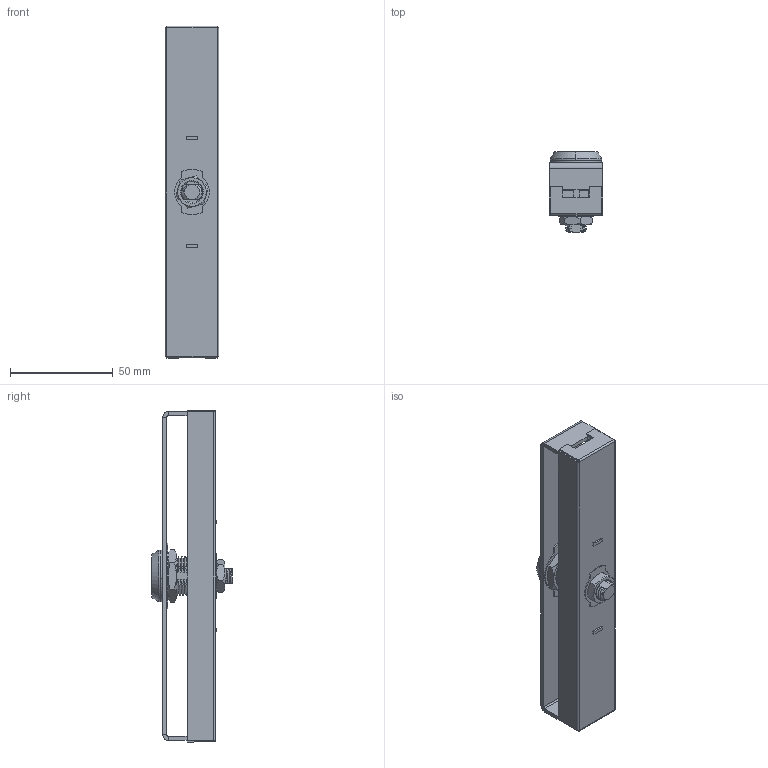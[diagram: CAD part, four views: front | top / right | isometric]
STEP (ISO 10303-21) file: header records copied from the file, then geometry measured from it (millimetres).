
FILE_DESCRIPTION (( 'STEP AP214' ), '1' );
FILE_NAME ('2.GE0100.STEP', '2010-02-19T14:21:10', ( '£ukaszC' ), ( '' ), 'SwSTEP 2.0', 'SolidWorks 2008', '' );
FILE_SCHEMA (( 'AUTOMOTIVE_DESIGN' ));
Products named in the file (14): 2.M19-25.00.00.08_Domyœlna; 2.M19-25.00.00.04_Domyœlna; 2.M19-25.00.00.09_Domyœlna; 2.M19-25.00.00.12_Domyœlna; 2.M19-25.00.00.11_Domyœlna; oring 11.11x1.78_Domyœlna; 2.M19-25.00.00.06_Domyœlna; 2.M19-25.00.00.01_Domyœlna; 2.GE0100; 2.M19-25.00.00.05_Domyœlna; 2.M19-25.00.00.07_Domyœlna; 2.M19-25.00.00.03_Domyœlna; 2.M19-25.00.00.02_Domyœlna; 2.M19-25.00.00.10_Domyœlna
Assembly tree (14 placements, depth 2):
  2.GE0100
    2.M19-25.00.00.03_Domyœlna
    2.M19-25.00.00.11_Domyœlna
    oring 11.11x1.78_Domyœlna
    2.M19-25.00.00.02_Domyœlna
    2.M19-25.00.00.04_Domyœlna
    2.M19-25.00.00.07_Domyœlna  x2
    2.M19-25.00.00.05_Domyœlna
    2.M19-25.00.00.06_Domyœlna
    2.M19-25.00.00.08_Domyœlna
    2.M19-25.00.00.10_Domyœlna
    2.M19-25.00.00.12_Domyœlna
    2.M19-25.00.00.09_Domyœlna
    2.M19-25.00.00.01_Domyœlna
Bounding box: 26.2 x 39.2 x 161.47 mm (x, y, z)
Volume: 31554.8 mm3; surface area: 46372.8 mm2
Topology: 14 solids, 14 shells, 579 faces, 1509 edges, 967 vertices
Faces by surface type: plane 264, cylinder 205, bspline 67, cone 31, torus 12
Entity records: 98232 total; most frequent: CARTESIAN_POINT 85374, ORIENTED_EDGE 2774, DIRECTION 2410, EDGE_CURVE 1387, VERTEX_POINT 891, AXIS2_PLACEMENT_3D 849, LINE 712, VECTOR 712
